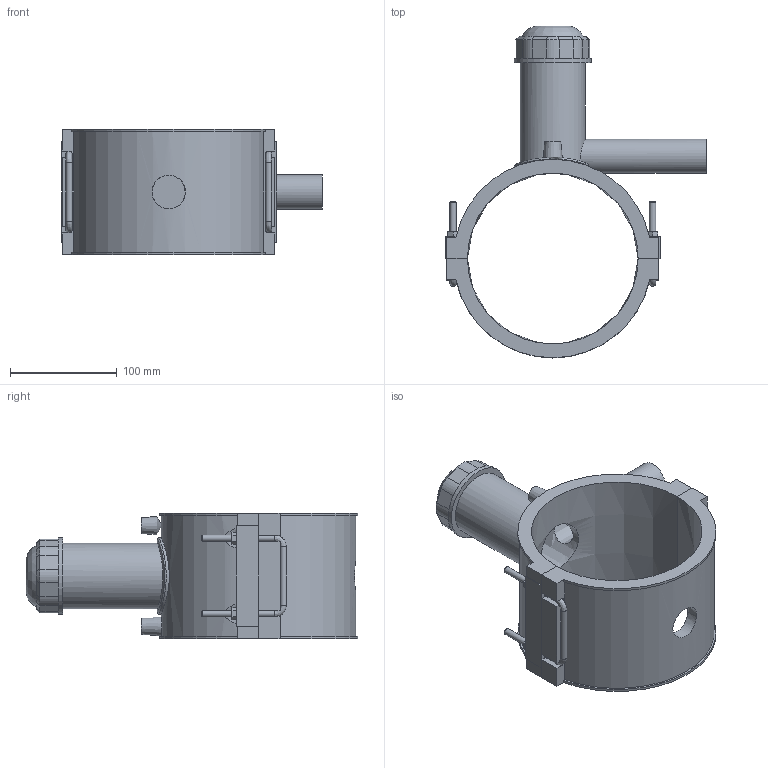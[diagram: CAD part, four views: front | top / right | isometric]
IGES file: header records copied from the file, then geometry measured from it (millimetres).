
Global section: file name: 496304160032.ipt; native system: Autodesk Inventor 2015; preprocessor: unknown; author: KIM; date: 20190124.131023; units: millimetre
Bounding box: 244.5 x 311.02 x 118 mm (x, y, z)
Volume: 1018728.5 mm3; surface area: 231234.7 mm2
Topology: 2 solids, 2 shells, 181 faces, 466 edges, 303 vertices
Faces by surface type: plane 110, cylinder 32, revolution 20, cone 14, bspline 5
Full cylindrical faces by diameter (mm): 4 x2, 6 x10, 32 x1, 61.2 x1, 72 x1
